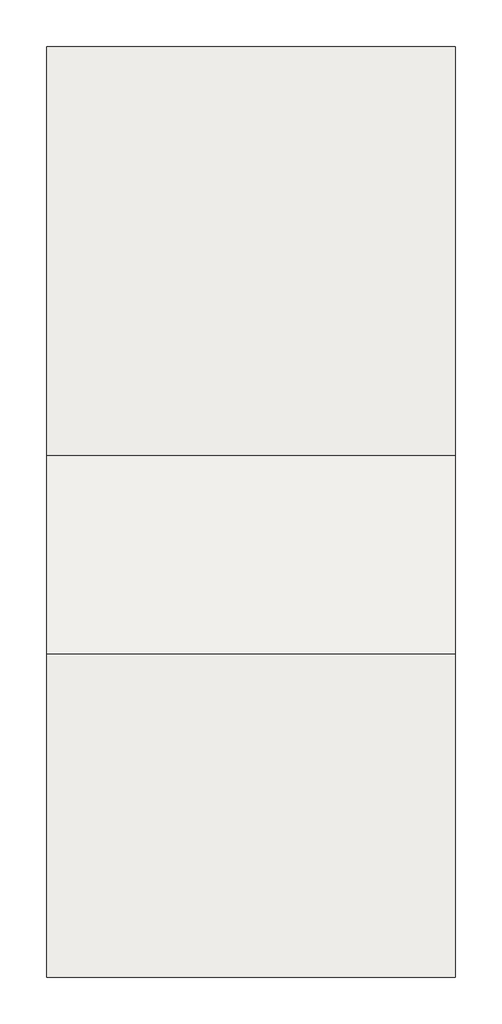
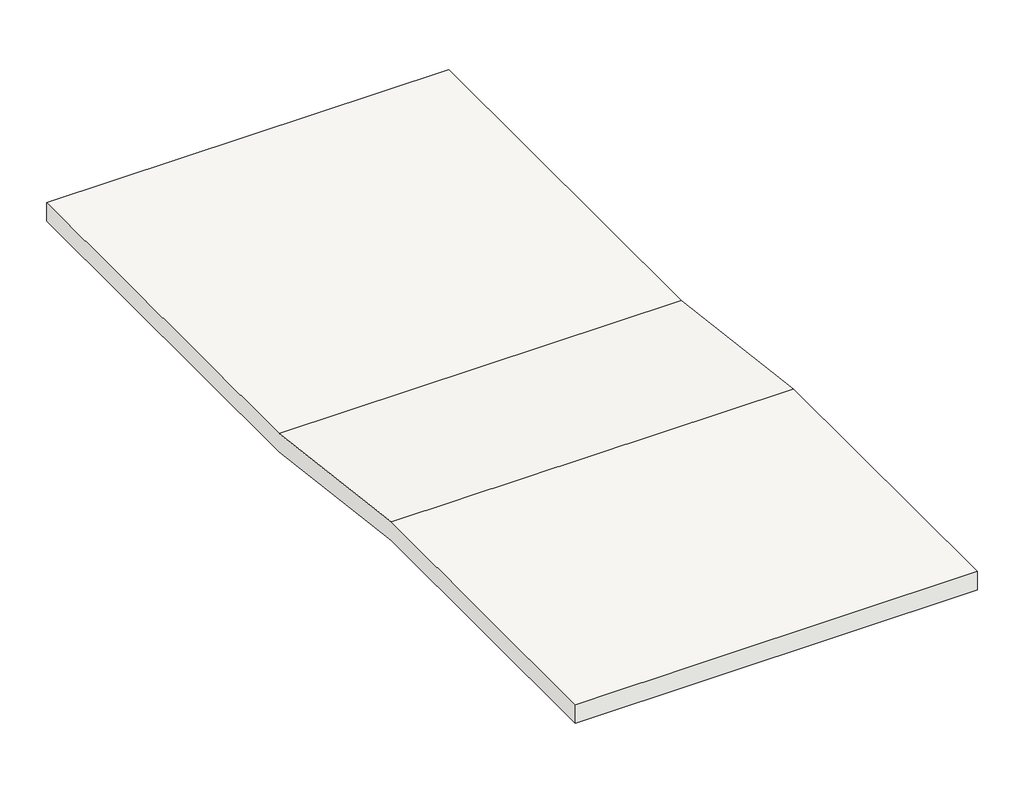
# One storey, incomplete: 1 slab.
"""IFC4 building model written with IfcOpenShell, lengths in millimetres."""

from ifc_helpers import new_model, si_unit, frame, origin, place, context, project, spatial, polyline, outline, extrude, element, save

model = new_model("IFC4")

# Units and contexts
model_context = context("Model", 3, world=origin())
ifc_project = project(units=[si_unit("LENGTHUNIT", "METRE", prefix="MILLI")], contexts=[model_context])

# Site, building, storey
site = spatial("IfcSite", under=ifc_project)
building = spatial("IfcBuilding", under=site)
storey = spatial("IfcBuildingStorey", under=building, Name="樓層 1", Elevation=0.0)

# Slab
placement = place(None, origin())
element("IfcSlab", 1, ObjectType="一般 - 24cm", at=placement, inside=storey, context=model_context, shape_type="SweptSolid", body=[
    extrude(outline(polyline([(779.7658621, 60.0), (779.7658621, 300.0), (4710.9560651, 300.0), (7110.9560651, 0.0), (12079.7658621, 0.0), (12079.7658621, -240.0), (7110.9560651, -240.0), (4710.9560651, 60.0), (779.7658621, 60.0)])), frame((-9041.1044119, 0.0, 0.0), z_axis=(1.0, 0.0, 0.0), x_axis=(0.0, 1.0, 0.0)), (0.0, 0.0, 1.0), 4958.7878244),
])

save(model, "model.ifc")
